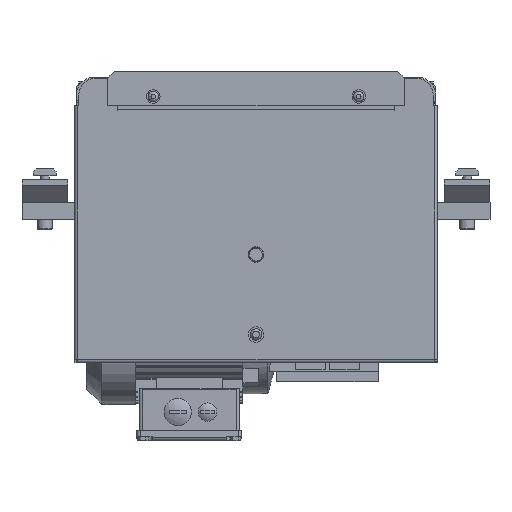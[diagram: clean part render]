
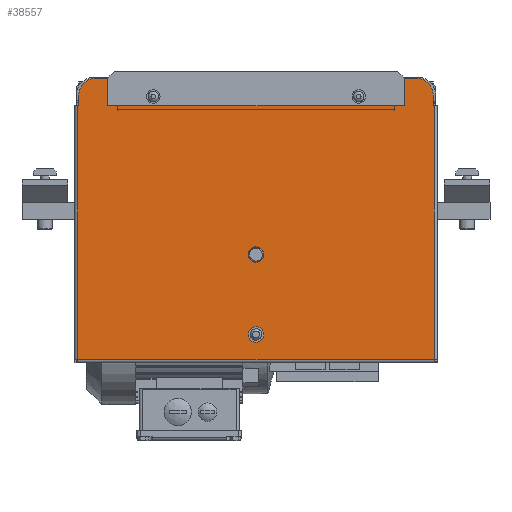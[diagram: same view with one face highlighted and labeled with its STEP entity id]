
A CAD part, front view. The second image highlights one B-rep face of the part: STEP entity #38557.
In plain terms, the highlighted planar face has unit normal (0, -1, 0).
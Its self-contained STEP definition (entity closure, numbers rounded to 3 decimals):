
#659=LINE('',#56593,#4462);
#662=LINE('',#56598,#4465);
#664=LINE('',#56602,#4467);
#666=LINE('',#56605,#4469);
#814=LINE('',#56989,#4617);
#815=LINE('',#56991,#4618);
#816=LINE('',#56993,#4619);
#817=LINE('',#56995,#4620);
#818=LINE('',#56997,#4621);
#819=LINE('',#56999,#4622);
#820=LINE('',#57001,#4623);
#821=LINE('',#57004,#4624);
#4462=VECTOR('',#45103,260.);
#4465=VECTOR('',#45108,15.);
#4467=VECTOR('',#45112,260.);
#4469=VECTOR('',#45116,15.);
#4617=VECTOR('',#45446,9.);
#4618=VECTOR('',#45447,0.75);
#4619=VECTOR('',#45448,222.5);
#4620=VECTOR('',#45449,312.);
#4621=VECTOR('',#45450,222.5);
#4622=VECTOR('',#45451,0.75);
#4623=VECTOR('',#45452,9.);
#4624=VECTOR('',#45455,280.5);
#8717=FACE_BOUND('',#11440,.T.);
#8718=FACE_BOUND('',#11441,.T.);
#8719=FACE_BOUND('',#11442,.T.);
#9276=FACE_OUTER_BOUND('',#11439,.T.);
#11439=EDGE_LOOP('',(#25529,#25530,#25531,#25532,#25533,#25534,#25535,#25536,
#25537,#25538));
#11440=EDGE_LOOP('',(#25539,#25540,#25541,#25542));
#11441=EDGE_LOOP('',(#25543));
#11442=EDGE_LOOP('',(#25544));
#13631=CIRCLE('',#40792,6.8);
#13644=CIRCLE('',#40822,15.);
#13645=CIRCLE('',#40823,15.);
#13646=CIRCLE('',#40824,6.75);
#15421=VERTEX_POINT('',#56591);
#15422=VERTEX_POINT('',#56592);
#15423=VERTEX_POINT('',#56597);
#15424=VERTEX_POINT('',#56601);
#15521=VERTEX_POINT('',#56876);
#15567=VERTEX_POINT('',#56985);
#15568=VERTEX_POINT('',#56986);
#15569=VERTEX_POINT('',#56988);
#15570=VERTEX_POINT('',#56990);
#15571=VERTEX_POINT('',#56992);
#15572=VERTEX_POINT('',#56994);
#15573=VERTEX_POINT('',#56996);
#15574=VERTEX_POINT('',#56998);
#15575=VERTEX_POINT('',#57000);
#15576=VERTEX_POINT('',#57002);
#15577=VERTEX_POINT('',#57005);
#19290=EDGE_CURVE('',#15421,#15422,#659,.T.);
#19293=EDGE_CURVE('',#15423,#15421,#662,.T.);
#19295=EDGE_CURVE('',#15424,#15423,#664,.T.);
#19297=EDGE_CURVE('',#15422,#15424,#666,.T.);
#19432=EDGE_CURVE('',#15521,#15521,#13631,.T.);
#19478=EDGE_CURVE('',#15567,#15568,#13644,.T.);
#19479=EDGE_CURVE('',#15568,#15569,#814,.T.);
#19480=EDGE_CURVE('',#15569,#15570,#815,.T.);
#19481=EDGE_CURVE('',#15570,#15571,#816,.T.);
#19482=EDGE_CURVE('',#15571,#15572,#817,.T.);
#19483=EDGE_CURVE('',#15572,#15573,#818,.T.);
#19484=EDGE_CURVE('',#15573,#15574,#819,.T.);
#19485=EDGE_CURVE('',#15574,#15575,#820,.T.);
#19486=EDGE_CURVE('',#15575,#15576,#13645,.T.);
#19487=EDGE_CURVE('',#15567,#15576,#821,.T.);
#19488=EDGE_CURVE('',#15577,#15577,#13646,.T.);
#25529=ORIENTED_EDGE('',*,*,#19478,.T.);
#25530=ORIENTED_EDGE('',*,*,#19479,.T.);
#25531=ORIENTED_EDGE('',*,*,#19480,.T.);
#25532=ORIENTED_EDGE('',*,*,#19481,.T.);
#25533=ORIENTED_EDGE('',*,*,#19482,.T.);
#25534=ORIENTED_EDGE('',*,*,#19483,.T.);
#25535=ORIENTED_EDGE('',*,*,#19484,.T.);
#25536=ORIENTED_EDGE('',*,*,#19485,.T.);
#25537=ORIENTED_EDGE('',*,*,#19486,.T.);
#25538=ORIENTED_EDGE('',*,*,#19487,.F.);
#25539=ORIENTED_EDGE('',*,*,#19290,.T.);
#25540=ORIENTED_EDGE('',*,*,#19297,.T.);
#25541=ORIENTED_EDGE('',*,*,#19295,.T.);
#25542=ORIENTED_EDGE('',*,*,#19293,.T.);
#25543=ORIENTED_EDGE('',*,*,#19432,.T.);
#25544=ORIENTED_EDGE('',*,*,#19488,.T.);
#35235=PLANE('',#40821);
#38557=ADVANCED_FACE('',(#9276,#8717,#8718,#8719),#35235,.T.);
#40792=AXIS2_PLACEMENT_3D('',#56877,#45351,#45352);
#40821=AXIS2_PLACEMENT_3D('',#56984,#45442,#45443);
#40822=AXIS2_PLACEMENT_3D('',#56987,#45444,#45445);
#40823=AXIS2_PLACEMENT_3D('',#57003,#45453,#45454);
#40824=AXIS2_PLACEMENT_3D('',#57006,#45456,#45457);
#45103=DIRECTION('',(1.,0.,0.));
#45108=DIRECTION('',(0.,0.,1.));
#45112=DIRECTION('',(-1.,0.,0.));
#45116=DIRECTION('',(0.,0.,-1.));
#45351=DIRECTION('center_axis',(0.,1.,0.));
#45352=DIRECTION('ref_axis',(0.614,0.,-0.79));
#45442=DIRECTION('center_axis',(0.,-1.,0.));
#45443=DIRECTION('ref_axis',(-1.,0.,0.));
#45444=DIRECTION('center_axis',(0.,-1.,0.));
#45445=DIRECTION('ref_axis',(1.,0.,0.));
#45446=DIRECTION('',(0.,0.,-1.));
#45447=DIRECTION('',(-1.,0.,0.));
#45448=DIRECTION('',(0.,0.,-1.));
#45449=DIRECTION('',(1.,0.,0.));
#45450=DIRECTION('',(0.,0.,1.));
#45451=DIRECTION('',(-1.,0.,0.));
#45452=DIRECTION('',(0.,0.,1.));
#45453=DIRECTION('center_axis',(0.,-1.,0.));
#45454=DIRECTION('ref_axis',(-1.,0.,0.));
#45455=DIRECTION('',(1.,0.,0.));
#45456=DIRECTION('center_axis',(0.,1.,0.));
#45457=DIRECTION('ref_axis',(-1.,0.,0.));
#56591=CARTESIAN_POINT('',(-130.,-199.,79.675));
#56592=CARTESIAN_POINT('',(130.,-199.,79.675));
#56593=CARTESIAN_POINT('',(-65.,-199.,79.675));
#56597=CARTESIAN_POINT('',(-130.,-199.,64.675));
#56598=CARTESIAN_POINT('',(-130.,-199.,21.813));
#56601=CARTESIAN_POINT('',(130.,-199.,64.675));
#56602=CARTESIAN_POINT('',(-65.,-199.,64.675));
#56605=CARTESIAN_POINT('',(130.,-199.,21.813));
#56876=CARTESIAN_POINT('',(4.172,-199.,-141.17));
#56877=CARTESIAN_POINT('Origin',(0.,-199.,
-135.8));
#56984=CARTESIAN_POINT('Origin',(0.,-199.,
-36.05));
#56985=CARTESIAN_POINT('',(-140.25,-199.,88.7));
#56986=CARTESIAN_POINT('',(-155.25,-199.,73.7));
#56987=CARTESIAN_POINT('Origin',(-140.25,-199.,73.7));
#56988=CARTESIAN_POINT('',(-155.25,-199.,64.7));
#56989=CARTESIAN_POINT('',(-155.25,-199.,15.075));
#56990=CARTESIAN_POINT('',(-156.,-199.,64.7));
#56991=CARTESIAN_POINT('',(-77.625,-199.,64.7));
#56992=CARTESIAN_POINT('',(-156.,-199.,-157.8));
#56993=CARTESIAN_POINT('',(-156.,-199.,14.325));
#56994=CARTESIAN_POINT('',(156.,-199.,-157.8));
#56995=CARTESIAN_POINT('',(-78.,-199.,-157.8));
#56996=CARTESIAN_POINT('',(156.,-199.,64.7));
#56997=CARTESIAN_POINT('',(156.,-199.,-96.925));
#56998=CARTESIAN_POINT('',(155.25,-199.,64.7));
#56999=CARTESIAN_POINT('',(79.5,-199.,64.7));
#57000=CARTESIAN_POINT('',(155.25,-199.,73.7));
#57001=CARTESIAN_POINT('',(155.25,-199.,15.075));
#57002=CARTESIAN_POINT('',(140.25,-199.,88.7));
#57003=CARTESIAN_POINT('Origin',(140.25,-199.,73.7));
#57004=CARTESIAN_POINT('',(-159.,-199.,88.7));
#57005=CARTESIAN_POINT('',(-6.75,-199.,-65.8));
#57006=CARTESIAN_POINT('Origin',(0.,-199.,
-65.8));
